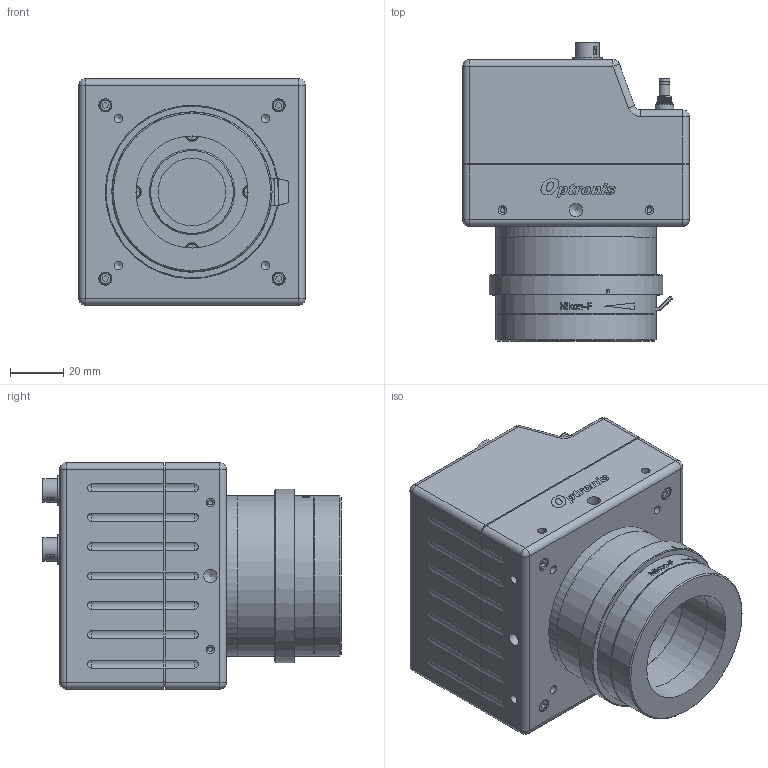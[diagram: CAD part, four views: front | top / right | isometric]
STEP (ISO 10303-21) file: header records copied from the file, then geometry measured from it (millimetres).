
FILE_DESCRIPTION(/* description */ (''),/* implementation_level */ '2;1');
FILE_NAME(/* name */ 'C:\Optronis\Inv\Modelle 3D\1890-3D\CP90.stp',/* time_stamp */ '2016-06-06T09:52:32+02:00',/* author */ ('ANU'),/* organization */ (''),/* preprocessor_version */ 'ST-DEVELOPER v16.1',/* originating_system */ 'Autodesk Inventor 2016',/* authorisation */ '');
FILE_SCHEMA (('CONFIG_CONTROL_DESIGN'));
Products named in the file (7): CP90; C-Mount; Nikon F-Mount; Nikon FG-Mount; M42-Mount; T-Mount; CP90_1
Assembly tree (6 placements, depth 2):
  CP90_1
    CP90
    C-Mount
    Nikon F-Mount
    Nikon FG-Mount
    M42-Mount
    T-Mount
Bounding box: 85 x 111.8 x 85.02 mm (x, y, z)
Surface area: 153230 mm2 (no closed solid volume)
Topology: 0 solids, 156 shells, 1411 faces, 4669 edges, 3317 vertices
Faces by surface type: plane 648, cylinder 397, bspline 175, cone 119, sphere 38, torus 34
Full cylindrical faces by diameter (mm): 2 x4, 2.013 x4, 3 x22, 3.2 x4, 3.242 x12, 4 x4, 4.978 x4, 5 x4, 5.5 x20, 5.6 x2, 6 x4, 7 x4, 8.85 x2, 11 x2, 25.4 x1, 32 x2, 42 x2, 44 x2, 47.1 x2, 47.7 x1, 47.8 x1, 48 x1, 48.5 x2, 50 x2, 52 x1, 53.5 x3, 54 x1, 55 x5, 55.618 x1, 55.791 x1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
Entity records: 97970 total; most frequent: CARTESIAN_POINT 59771, ORIENTED_EDGE 6882, DIRECTION 6558, EDGE_CURVE 4396, VERTEX_POINT 3280, AXIS2_PLACEMENT_3D 2242, LINE 2074, VECTOR 2074
